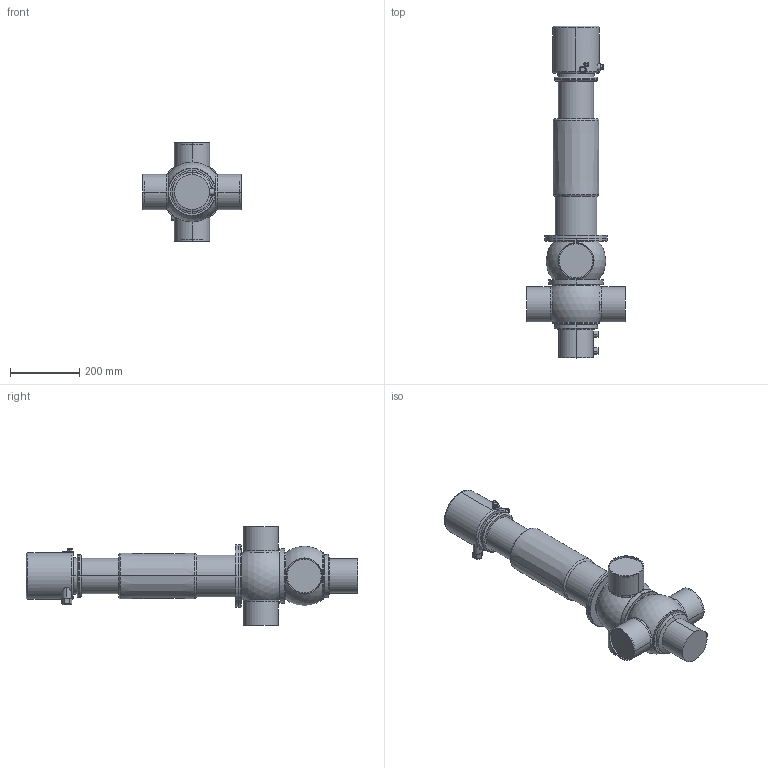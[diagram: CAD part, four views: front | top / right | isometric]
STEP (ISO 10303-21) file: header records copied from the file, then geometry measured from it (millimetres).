
FILE_DESCRIPTION(('Creo Elements/Direct Modeling STEP Export'),'2;1');
FILE_NAME('D44-4T_CU4.stp','2019-09-03T14:43:36',(''),(''),'PTC Creo Elements/Direct Modeling STEP processor for AP214 (Solid Model)','PTC Creo Elements/Direct Modeling 19.0B 21-Mar-2015 (C) Parametric Technology GmbH','');
FILE_SCHEMA(('AUTOMOTIVE_DESIGN { 1 0 10303 214 1 1 1 1 }'));
Length unit declared in the file: millimetre
Products named in the file (5): actuator_D4-125_yoke; CU41-D4; housing_D44_4T; drain_pipe_92; D44-4T_CU4
Assembly tree (4 placements, depth 2):
  D44-4T_CU4
    drain_pipe_92
    housing_D44_4T
    CU41-D4
    actuator_D4-125_yoke
Bounding box: 285 x 956.35 x 285 mm (x, y, z)
Volume: 15404721.6 mm3; surface area: 683726.5 mm2
Topology: 4 solids, 4 shells, 251 faces, 578 edges, 363 vertices
Faces by surface type: cylinder 98, plane 63, torus 42, extrusion 33, cone 10, sphere 5
Entity records: 10928 total; most frequent: CARTESIAN_POINT 5575, ORIENTED_EDGE 1152, DIRECTION 988, EDGE_CURVE 576, AXIS2_PLACEMENT_3D 393, VERTEX_POINT 363, EDGE_LOOP 281, FACE_OUTER_BOUND 251
